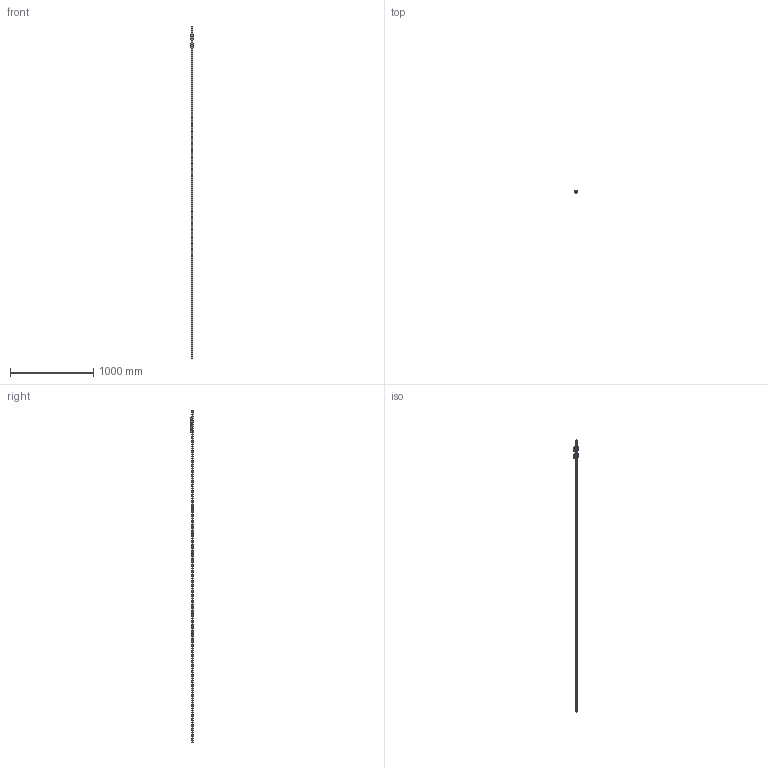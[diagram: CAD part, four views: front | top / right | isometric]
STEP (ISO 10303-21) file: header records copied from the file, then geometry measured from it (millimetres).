
FILE_DESCRIPTION((''),'2;1');
FILE_NAME('BRS25-SU_CUSTOMER_ASM_1_ASM','2020-11-24T16:19:58',('TWVS2025'),(''),'CREO PARAMETRIC BY PTC INC, 2018420','CREO PARAMETRIC BY PTC INC, 2018420','');
FILE_SCHEMA(('CONFIG_CONTROL_DESIGN'));
Products named in the file (4): BC-BRC25-SU_ASM_1; BRR25_CUSTOMER_1; BC-BRD25-SU-ASM_ASM; BRS25-SU_CUSTOMER_ASM_1_ASM
Assembly tree (3 placements, depth 2):
  BRS25-SU_CUSTOMER_ASM_1_ASM
    BC-BRC25-SU_ASM_1
    BRR25_CUSTOMER_1
    BC-BRD25-SU-ASM_ASM
Bounding box: 47.95 x 33 x 4000 mm (x, y, z)
Volume: 1734395.3 mm3; surface area: 466696.4 mm2
Topology: 8 solids, 32 shells, 4791 faces, 13689 edges, 8989 vertices
Faces by surface type: plane 2766, cylinder 1385, bspline 241, cone 184, torus 154, sphere 61
Entity records: 222444 total; most frequent: CARTESIAN_POINT 100196, ORIENTED_EDGE 27189, DIRECTION 22920, EDGE_CURVE 13635, VERTEX_POINT 8989, VECTOR 8420, LINE 8420, AXIS2_PLACEMENT_3D 7250
